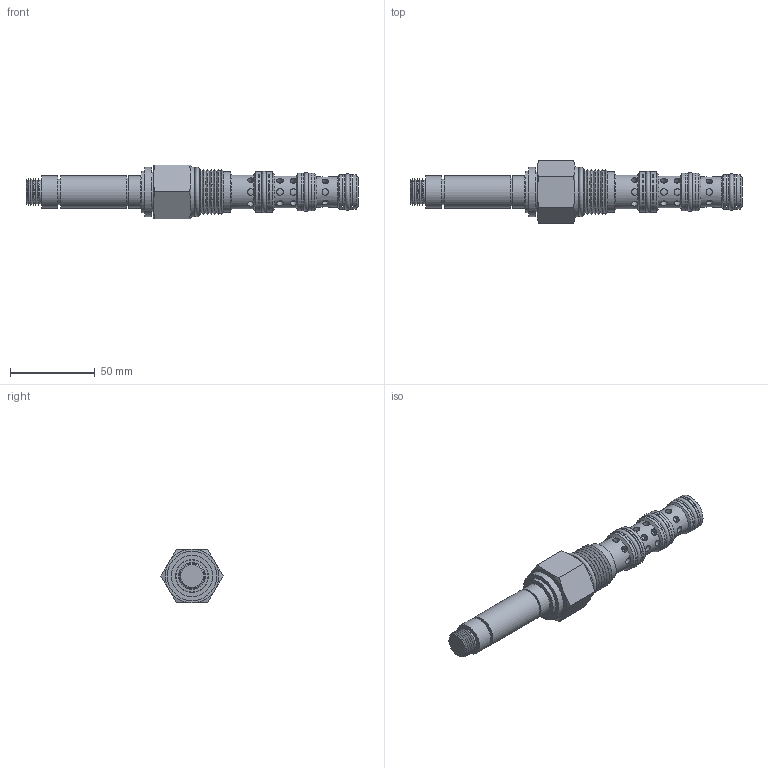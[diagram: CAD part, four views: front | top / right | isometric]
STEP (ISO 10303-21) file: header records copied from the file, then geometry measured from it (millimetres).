
FILE_DESCRIPTION(/* description */ ('HTV-S4A-00'),/* implementation_level */ '2;1');
FILE_NAME(/* name */ 'P:\EARS\EAR16xx\EAR1683 - catalog pages changes\Group1_Distribution 11_22_22\RTeck Agency_Tom\_step files\HTVS4A00.stp',/* time_stamp */ '2023-01-03T08:59:02-06:00',/* author */ ('Michael'),/* organization */ (''),/* preprocessor_version */ 'ST-DEVELOPER v17.2',/* originating_system */ 'Autodesk Inventor 2019',/* authorisation */ '');
FILE_SCHEMA (('AUTOMOTIVE_DESIGN { 1 0 10303 214 3 1 1 }'));
Length unit declared in the file: inch
Products named in the file (1): 88210003
Bounding box: 195.45 x 36.66 x 31.75 mm (x, y, z)
Volume: 74865.1 mm3; surface area: 24840 mm2
Topology: 11 solids, 11 shells, 196 faces, 401 edges, 253 vertices
Faces by surface type: cylinder 101, cone 47, plane 40, torus 8
Full cylindrical faces by diameter (mm): 3.81 x32, 10.185 x1, 12.703 x1, 13.589 x1, 14.935 x1, 16.129 x1, 16.18 x2, 16.98 x1, 17.704 x1, 17.755 x2, 17.78 x1, 18.796 x1, 18.974 x1, 19.025 x2, 19.304 x1, 19.355 x2, 20.015 x1, 20.498 x2, 20.549 x2, 22.073 x2, 22.149 x2, 22.987 x1, 23.673 x2, 23.724 x2, 23.876 x1, 24.003 x1, 24.435 x1, 29.21 x1
Entity records: 7466 total; most frequent: CARTESIAN_POINT 3177, DIRECTION 810, ORIENTED_EDGE 802, EDGE_CURVE 401, AXIS2_PLACEMENT_3D 349, VERTEX_POINT 253, EDGE_LOOP 242, STYLED_ITEM 207
